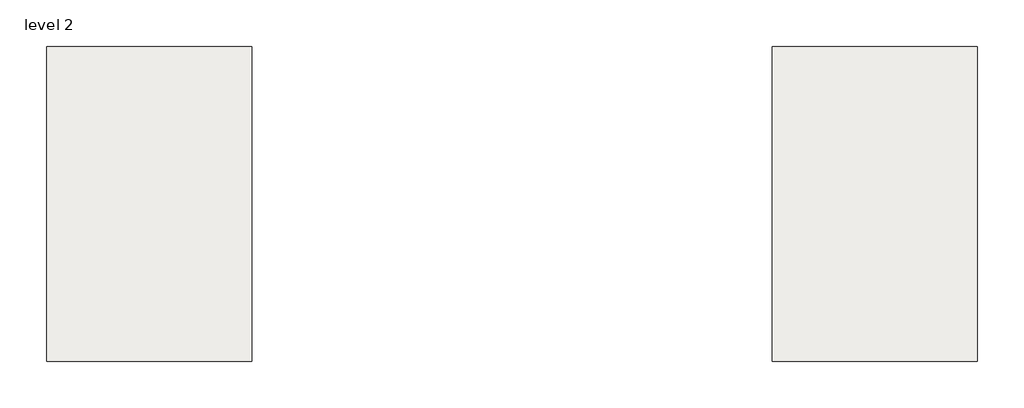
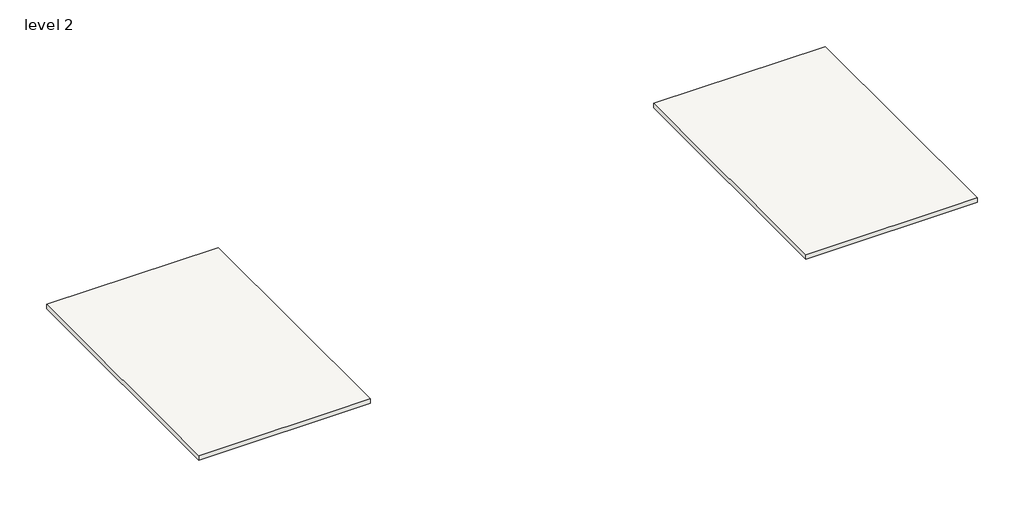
# One storey, incomplete: 2 slabs.
"""IFC4 building model written with IfcOpenShell, lengths in millimetres."""

from ifc_helpers import new_model, si_unit, frame, origin, place, context, project, spatial, polyline, outline, extrude, element, save

model = new_model("IFC4")

# Units and contexts
model_context = context("Model", 3, world=origin())
ifc_project = project(units=[si_unit("LENGTHUNIT", "METRE", prefix="MILLI")], contexts=[model_context])

# Site, building, storey
site = spatial("IfcSite", under=ifc_project)
building = spatial("IfcBuilding", under=site)
storey = spatial("IfcBuildingStorey", under=building, Name="level 2", Elevation=2930.0)

# Slabs
placement = place(None, origin())
element("IfcSlab", 1, ObjectType="40", at=placement, inside=storey, context=model_context, shape_type="SweptSolid", body=[
    extrude(outline(polyline([(49498.9736341, 4919.713032), (34941.7570409, 4919.713032), (34941.7570409, 27279.1842947), (49498.9736341, 27279.1842947), (49498.9736341, 4919.713032)])), frame((0.0, 0.0, 2930.0), z_axis=(0.0, 0.0, 1.0), x_axis=(1.0, 0.0, 0.0)), (0.0, 0.0, 1.0), 400.0),
])
element("IfcSlab", 2, ObjectType="40", at=placement, inside=storey, context=model_context, shape_type="SweptSolid", body=[
    extrude(outline(polyline([(101007.1299557, 4919.713032), (86449.9133625, 4919.713032), (86449.9133625, 27279.1842947), (101007.1299557, 27279.1842947), (101007.1299557, 4919.713032)])), frame((0.0, 0.0, 2930.0), z_axis=(0.0, 0.0, 1.0), x_axis=(1.0, 0.0, 0.0)), (0.0, 0.0, 1.0), 400.0),
])

save(model, "model.ifc")
